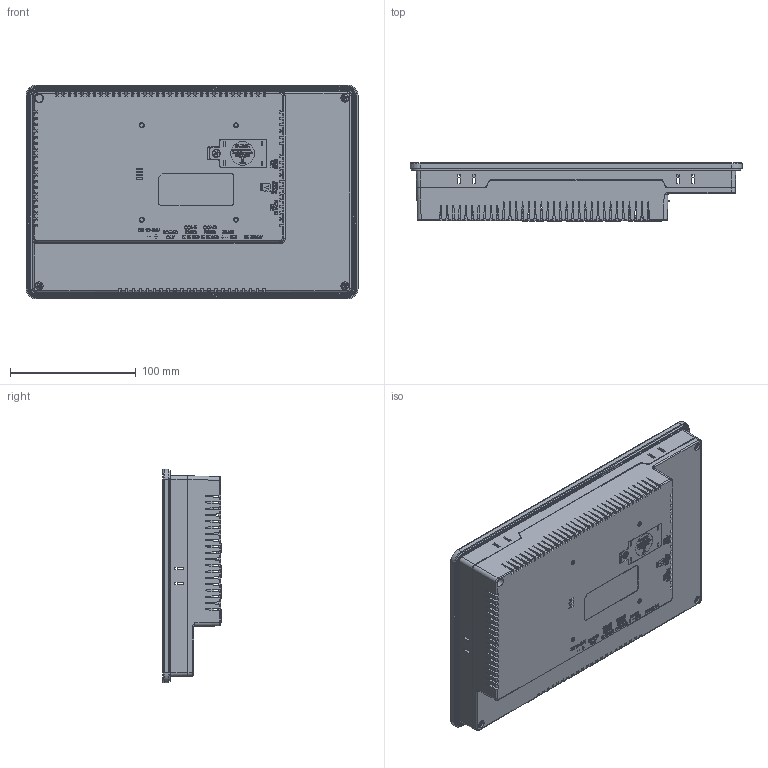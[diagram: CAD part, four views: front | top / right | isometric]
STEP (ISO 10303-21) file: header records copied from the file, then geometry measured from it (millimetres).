
FILE_DESCRIPTION (( 'STEP AP214' ), '1' );
FILE_NAME ('CHA-102WR_rev1_蝶變だ橾瞪辨.STEP', '2023-05-25T11:03:54', ( '' ), ( '' ), 'SwSTEP 2.0', 'SolidWorks 2020', '' );
FILE_SCHEMA (( 'AUTOMOTIVE_DESIGN' ));
Length unit declared in the file: millimetre
Products named in the file (1): CHA-102WR_rev1_蝶變だ橾瞪辨
Bounding box: 264 x 46.29 x 170 mm (x, y, z)
Surface area: 205679.3 mm2 (no closed solid volume)
Topology: 0 solids, 58 shells, 1910 faces, 9325 edges, 7102 vertices
Faces by surface type: plane 1304, bspline 305, cylinder 248, cone 29, torus 21, sphere 3
Full cylindrical faces by diameter (mm): 0.672 x1, 0.868 x1, 1.922 x1, 2 x3, 3 x4, 3.6 x1, 5 x1, 7 x1
Entity records: 138661 total; most frequent: CARTESIAN_POINT 52596, ORIENTED_EDGE 13033, DIRECTION 10177, EDGE_CURVE 9267, VERTEX_POINT 7086, VECTOR 6285, LINE 6285, EDGE_LOOP 2254
